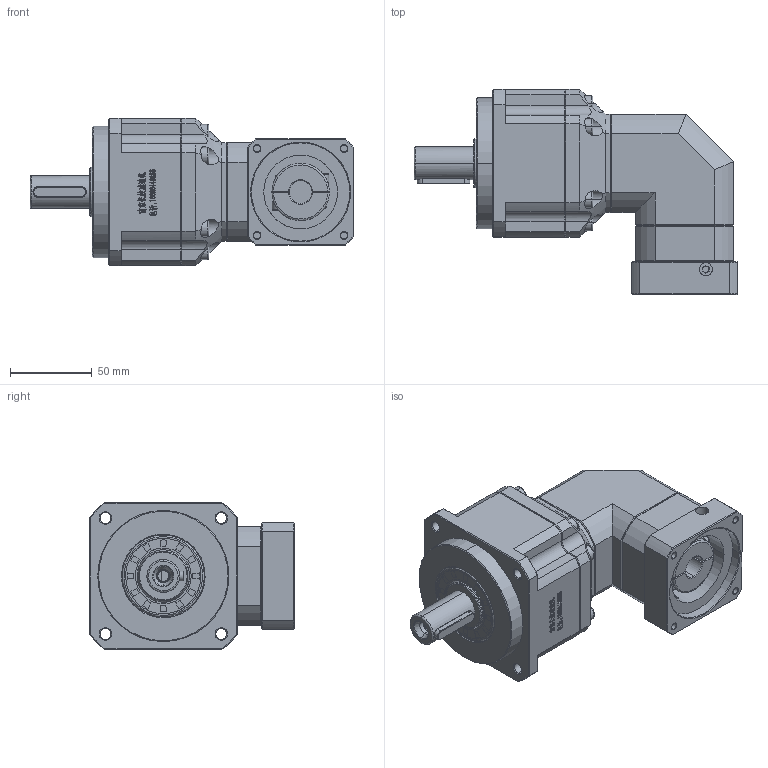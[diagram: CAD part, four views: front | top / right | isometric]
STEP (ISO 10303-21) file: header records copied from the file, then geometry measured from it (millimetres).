
FILE_DESCRIPTION (( 'STEP AP214' ), '1' );
FILE_NAME ('ZPBR090-D20-L2-P1-14-60-75-M5.step', '2024-06-07T18:30:34', ( 'Windows 蚚誧' ), ( 'Organization' ), 'SwSTEP 2.0', 'SolidWorks 2016', '' );
FILE_SCHEMA (( 'AUTOMOTIVE_DESIGN' ));
Length unit declared in the file: millimetre
Products named in the file (1): ZPBR090-D20-L2-P1-14-60-75-M5
Bounding box: 197.5 x 125 x 90 mm (x, y, z)
Surface area: 89250.2 mm2 (no closed solid volume)
Topology: 0 solids, 30 shells, 2018 faces, 5372 edges, 3441 vertices
Faces by surface type: plane 1080, bspline 371, cylinder 285, cone 255, torus 27
Entity records: 97430 total; most frequent: CARTESIAN_POINT 46371, ORIENTED_EDGE 10706, DIRECTION 8046, EDGE_CURVE 5372, VERTEX_POINT 3441, VECTOR 3374, LINE 3374, AXIS2_PLACEMENT_3D 2336
